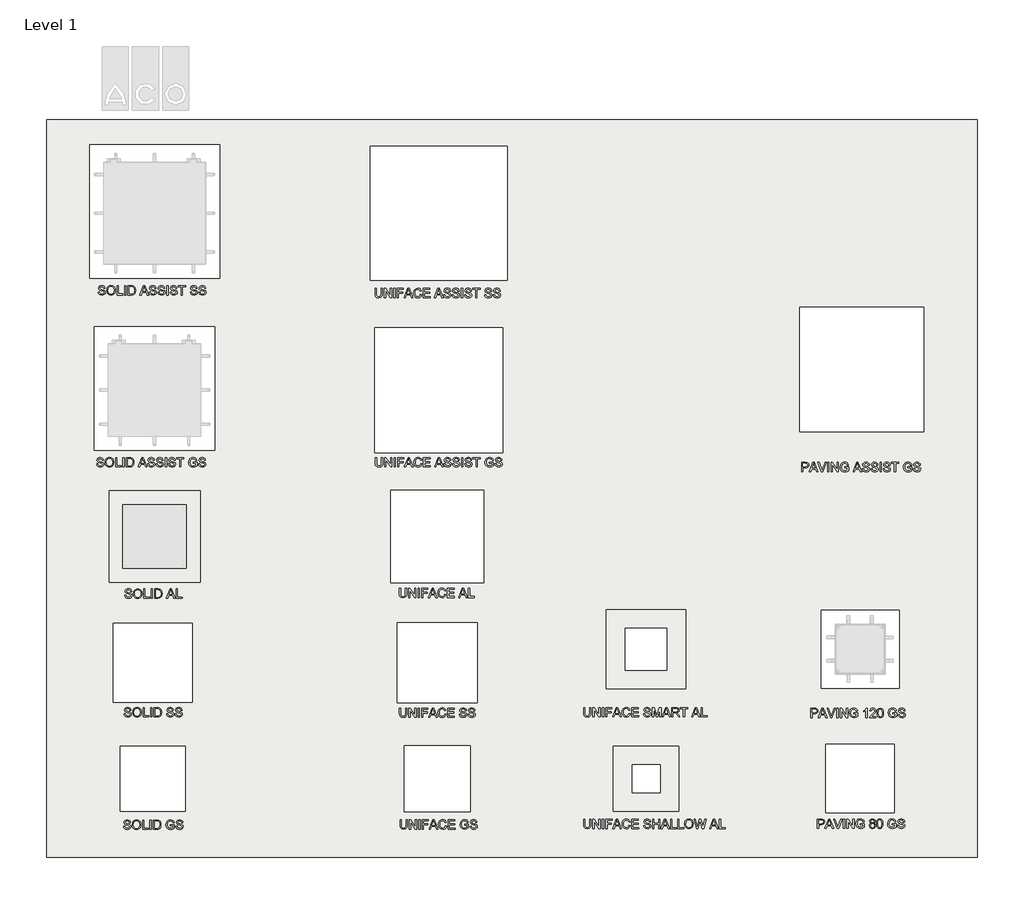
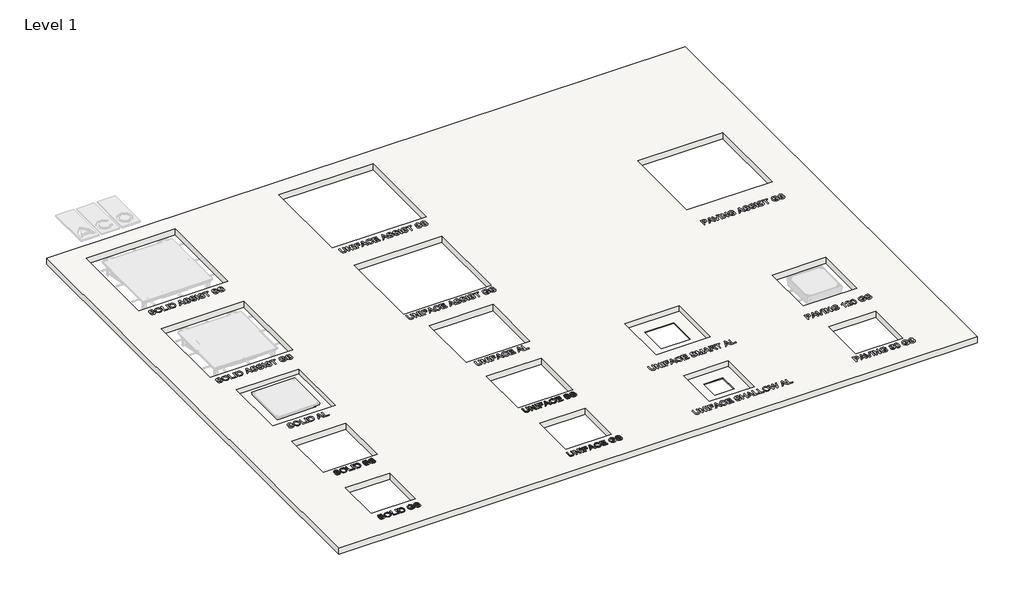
# One storey, part 1 of 4: 4 proxies, 1 slab.
"""IFC4 building model written with IfcOpenShell, lengths in millimetres."""

import ifcopenshell
import ifcopenshell.guid

model = None  # the IFC model being written
_history = None  # IfcOwnerHistory: only IFC2X3 demands one
_inside = {}  # id of a spatial element -> (the spatial element, [elements in it])
_under = {}  # id of a project, library or spatial element -> (it, [spatial elements below it])
_declared = {}  # id of a project -> (the project, [libraries it declares])
_typed = {}  # id of a type object -> (the type object, [elements of that type])
_made_of = {}  # id of a material, layer set ... -> (it, [elements and type objects made of it])


def new_model(schema):
    """Start an empty IFC model of exactly this schema.

    Asked for "IFC4X3", IfcOpenShell would pick the latest addendum, in which some entities
    have other attributes; the version numbers below select the first issue.
    IFC2X3 requires an IfcOwnerHistory on every rooted entity: one is made here for all.
    """
    global model, _history
    if schema == "IFC4X3":
        model = ifcopenshell.file(schema_version=(4, 3, 0, 0))
    else:
        model = ifcopenshell.file(schema=schema)
    _inside.clear()
    _under.clear()
    _declared.clear()
    _typed.clear()
    _made_of.clear()
    _history = None
    if model.schema == "IFC2X3":
        org = make("IfcOrganization", Name="unknown")
        user = make(
            "IfcPersonAndOrganization",
            ThePerson=make("IfcPerson", FamilyName="unknown"),
            TheOrganization=org,
        )
        app = make(
            "IfcApplication",
            ApplicationDeveloper=org,
            Version="unknown",
            ApplicationFullName="unknown",
            ApplicationIdentifier="unknown",
        )
        _history = make(
            "IfcOwnerHistory",
            OwningUser=user,
            OwningApplication=app,
            ChangeAction="ADDED",
            CreationDate=0,
        )
    return model


def make(cls, **values):
    """One entity of the class cls with the attributes given. An attribute that is None is left unset."""
    return model.create_entity(
        cls, **{name: value for name, value in values.items() if value is not None}
    )


def rooted(cls, **values):
    """An entity with a GlobalId (a new one), such as an element, a storey or a relation."""
    return make(cls, GlobalId=ifcopenshell.guid.new(), OwnerHistory=_history, **values)


def si_unit(unit_type, name, prefix=None):
    """IfcSIUnit, for example si_unit("LENGTHUNIT", "METRE", prefix="MILLI")."""
    return make("IfcSIUnit", UnitType=unit_type, Prefix=prefix, Name=name)


def assignment(units):
    """IfcUnitAssignment: the units of a project."""
    return None if units is None else make("IfcUnitAssignment", Units=units)


def point(xyz):
    """IfcCartesianPoint."""
    return None if xyz is None else make("IfcCartesianPoint", Coordinates=xyz)


def direction(xyz):
    """IfcDirection."""
    return None if xyz is None else make("IfcDirection", DirectionRatios=xyz)


def frame(location, z_axis=None, x_axis=None):
    """IfcAxis2Placement3D, a coordinate frame: its origin and axes. An axis left out is left unset."""
    return make(
        "IfcAxis2Placement3D",
        Location=point(location),
        Axis=direction(z_axis),
        RefDirection=direction(x_axis),
    )


def origin():
    """The frame at (0, 0, 0) with its axes left unset."""
    return frame((0.0, 0.0, 0.0))


def origin_with_axes():
    """The frame at (0, 0, 0) with the z axis (0, 0, 1) and the x axis (1, 0, 0) written out."""
    return frame((0.0, 0.0, 0.0), z_axis=(0.0, 0.0, 1.0), x_axis=(1.0, 0.0, 0.0))


def place(relative_to, where):
    """IfcLocalPlacement: puts the frame where relative to a parent placement (None: the world)."""
    return make(
        "IfcLocalPlacement", PlacementRelTo=relative_to, RelativePlacement=where
    )


def context(
    kind, dimensions, precision=None, world=None, true_north=None, identifier=None
):
    """IfcGeometricRepresentationContext, for example the 3D "Model" context."""
    return make(
        "IfcGeometricRepresentationContext",
        ContextIdentifier=identifier,
        ContextType=kind,
        CoordinateSpaceDimension=dimensions,
        Precision=precision,
        WorldCoordinateSystem=world,
        TrueNorth=true_north,
    )


def project(units=None, contexts=None):
    """IfcProject with its units and contexts."""
    return rooted(
        "IfcProject",
        Name="project",
        RepresentationContexts=contexts,
        UnitsInContext=assignment(units),
    )


def spatial(cls, under=None, at=None, **own):
    """A site, building, storey or space (cls), placed at a placement, below another one or the project."""
    s = rooted(cls, ObjectPlacement=at, **own)
    if under is not None:
        _under.setdefault(under.id(), (under, []))[1].append(s)
    return s


def polyline(points):
    """IfcPolyline through the points."""
    return make("IfcPolyline", Points=[point(p) for p in points])


def outline(outer, holes=None, kind="AREA"):
    """IfcArbitraryClosedProfileDef: a profile drawn as a closed curve; with holes, ...WithVoids."""
    if holes is None:
        return make("IfcArbitraryClosedProfileDef", ProfileType=kind, OuterCurve=outer)
    return make(
        "IfcArbitraryProfileDefWithVoids",
        ProfileType=kind,
        OuterCurve=outer,
        InnerCurves=holes,
    )


def extrude(swept, where, along, depth):
    """IfcExtrudedAreaSolid: the profile swept, set in the frame where, extruded along a direction by depth."""
    return make(
        "IfcExtrudedAreaSolid",
        SweptArea=swept,
        Position=where,
        ExtrudedDirection=direction(along),
        Depth=depth,
    )


def faces_of(points, faces, orient=None, outer=None):
    """IfcFace entities. A face is a list of loops; a loop is a list of indices into points, from 0.

    orient and outer hold one flag for each loop. By default every Orientation is true, the
    first loop of a face is its IfcFaceOuterBound and the others are IfcFaceBound.
    """
    made = []
    for i, loops in enumerate(faces):
        bounds = []
        for j, loop in enumerate(loops):
            is_outer = j == 0 if outer is None else outer[i][j]
            bounds.append(
                make(
                    "IfcFaceOuterBound" if is_outer else "IfcFaceBound",
                    Bound=make("IfcPolyLoop", Polygon=[points[k] for k in loop]),
                    Orientation=True if orient is None else orient[i][j],
                )
            )
        made.append(make("IfcFace", Bounds=bounds))
    return made


def faceted_brep(points, faces, orient=None, outer=None, voids=None):
    """IfcFacetedBrep: a solid bounded by flat faces; with voids (closed shells), ...WithVoids."""
    shared = [point(p) for p in points]
    hull = make("IfcClosedShell", CfsFaces=faces_of(shared, faces, orient, outer))
    if voids is None:
        return make("IfcFacetedBrep", Outer=hull)
    return make(
        "IfcFacetedBrepWithVoids",
        Outer=hull,
        Voids=[
            make(cls, CfsFaces=faces_of(shared, fs, o, b)) for cls, fs, o, b in voids
        ],
    )


def shape(context_of_items, identifier, shape_type, items):
    """IfcShapeRepresentation: the items that make up one representation, for example the "Body"."""
    return make(
        "IfcShapeRepresentation",
        ContextOfItems=context_of_items,
        RepresentationIdentifier=identifier,
        RepresentationType=shape_type,
        Items=items,
    )


def made_of(thing, what):
    """Note that an element or type object is made of a material, layer set ...; save() writes the relation."""
    if what is not None:
        _made_of.setdefault(what.id(), (what, []))[1].append(thing)
    return thing


def element(
    cls,
    number,
    at=None,
    inside=None,
    cuts=None,
    type_object=None,
    material=None,
    context=None,
    identifier="Body",
    shape_type=None,
    held_by="IfcProductDefinitionShape",
    body=None,
    shapes=None,
    **own,
):
    """One element of the class cls, such as IfcWall. Its Tag is "e" and its number.

    at: its placement. inside: the storey or other place that contains it. cuts: it is an
    opening in that element (IfcRelVoidsElement). A single representation is given by context,
    identifier, shape_type and body (its items); several are given by shapes. held_by: the class
    of the entity that holds the representations. save() writes the other relations.
    """
    e = rooted(cls, Tag="e%d" % number, ObjectPlacement=at, **own)
    if body is not None:
        shapes = [shape(context, identifier, shape_type, body)]
    if shapes is not None:
        e.Representation = make(held_by, Representations=shapes)
    if inside is not None:
        _inside.setdefault(inside.id(), (inside, []))[1].append(e)
    if cuts is not None:
        rooted(
            "IfcRelVoidsElement", RelatingBuildingElement=cuts, RelatedOpeningElement=e
        )
    if type_object is not None:
        _typed.setdefault(type_object.id(), (type_object, []))[1].append(e)
    return made_of(e, material)


def aggregate(whole, parts):
    """IfcRelAggregates: a whole, such as a stair, and the parts it consists of."""
    return rooted("IfcRelAggregates", RelatingObject=whole, RelatedObjects=parts)


def save(model, path):
    """Write the relations noted so far, then the file.

    IfcRelAggregates (storeys below a building ...), IfcRelContainedInSpatialStructure (elements
    in a storey), IfcRelDefinesByType, IfcRelAssociatesMaterial and IfcRelDeclares: one each for
    every whole, place, type object, material and project.
    """
    for whole, parts in _under.values():
        aggregate(whole, parts)
    for where, things in _inside.values():
        rooted(
            "IfcRelContainedInSpatialStructure",
            RelatedElements=things,
            RelatingStructure=where,
        )
    for kind, things in _typed.values():
        rooted("IfcRelDefinesByType", RelatedObjects=things, RelatingType=kind)
    for what, things in _made_of.values():
        rooted("IfcRelAssociatesMaterial", RelatedObjects=things, RelatingMaterial=what)
    for by, libraries in _declared.values():
        rooted("IfcRelDeclares", RelatingContext=by, RelatedDefinitions=libraries)
    model.write(path)


model = new_model("IFC4")

# Units and contexts
model_context = context("Model", 3, world=origin())
ifc_project = project(units=[si_unit("LENGTHUNIT", "METRE", prefix="MILLI")], contexts=[model_context])

# Site, building, storey
site = spatial("IfcSite", under=ifc_project)
building = spatial("IfcBuilding", under=site)
storey = spatial("IfcBuildingStorey", under=building, Name="Level 1", Elevation=0.0)

# Proxies
placement = place(None, origin())
element("IfcBuildingElementProxy", 1, Name="100mm ACO", ObjectType="100mm ACO", at=placement, inside=storey, context=model_context, shape_type="SweptSolid", body=[
    extrude(outline(polyline([(4611.9144289, -5238.8626442), (4611.0753085, -5253.1421581), (4606.61929, -5266.6259544), (4594.8716048, -5278.1710933), (4573.1991511, -5282.7862553), (4551.8739197, -5278.6919266), (4539.9960261, -5268.1016489), (4535.1783178, -5254.5744498), (4534.1366511, -5238.8626442), (4534.1366511, -5180.9344035), (4547.0996141, -5180.9344035), (4547.0996141, -5239.2098665), (4548.3872298, -5254.8782692), (4555.1725308, -5266.5680841), (4562.1676118, -5270.3983792), (4572.1574845, -5271.6751442), (4589.5909335, -5267.6097507), (4597.1864197, -5256.7445887), (4598.9514659, -5239.2098665), (4598.9514659, -5180.9344035), (4611.9144289, -5180.9344035), (4611.9144289, -5238.8626442)])), origin_with_axes(), (0.0, 0.0, 1.0), 10.0),
    extrude(outline(polyline([(4711.9144289, -5280.9344035), (4698.02554, -5280.9344035), (4647.3600308, -5202.6936628), (4647.3600308, -5280.9344035), (4634.1366511, -5280.9344035), (4634.1366511, -5180.9344035), (4648.0544752, -5180.9344035), (4698.6910493, -5259.1172739), (4698.6910493, -5180.9344035), (4711.9144289, -5180.9344035), (4711.9144289, -5280.9344035)])), origin_with_axes(), (0.0, 0.0, 1.0), 10.0),
    extrude(outline(polyline([(4748.9514659, -5280.9344035), (4735.988503, -5280.9344035), (4735.988503, -5180.9344035), (4748.9514659, -5180.9344035), (4748.9514659, -5280.9344035)])), origin_with_axes(), (0.0, 0.0, 1.0), 10.0),
    extrude(outline(polyline([(4839.6922067, -5192.0455146), (4785.988503, -5192.0455146), (4785.988503, -5223.5269961), (4832.2847993, -5223.5269961), (4832.2847993, -5234.6381072), (4785.988503, -5234.6381072), (4785.988503, -5280.9344035), (4773.02554, -5280.9344035), (4773.02554, -5180.9344035), (4839.6922067, -5180.9344035), (4839.6922067, -5192.0455146)])), origin_with_axes(), (0.0, 0.0, 1.0), 10.0),
    extrude(outline(polyline([(4940.1551697, -5280.9344035), (4926.3530863, -5280.9344035), (4914.3739197, -5251.3047739), (4871.926003, -5251.3047739), (4860.4097993, -5280.9344035), (4846.6366511, -5280.9344035), (4885.4966048, -5180.9344035), (4899.6748456, -5180.9344035), (4940.1551697, -5280.9344035)]), holes=[polyline([(4909.8600308, -5240.1936628), (4895.4358409, -5203.5327831), (4892.4699845, -5191.8719035), (4887.8114197, -5210.4482924), (4876.2662808, -5240.1936628), (4909.8600308, -5240.1936628)])]), origin_with_axes(), (0.0, 0.0, 1.0), 10.0),
    extrude(outline(polyline([(5034.1366511, -5249.1056998), (5028.2230227, -5263.9313653), (5019.1048224, -5274.4384544), (5007.3173514, -5280.6993051), (4993.3959104, -5282.7862553), (4972.4902391, -5278.9306419), (4958.1528548, -5267.3638016), (4949.8629243, -5250.3716141), (4947.0996141, -5230.2399591), (4950.3439717, -5208.8532403), (4960.0770447, -5192.6676211), (4974.909944, -5182.478819), (4993.4537808, -5179.0825516), (5006.7675828, -5180.8946176), (5018.0052854, -5186.3308155), (5026.6749903, -5195.2609371), (5032.2847993, -5207.5547739), (5019.3218363, -5210.5640331), (5009.4694058, -5195.3007229), (4992.9618826, -5190.1936628), (4978.7402391, -5192.9027195), (4968.4248456, -5201.0298896), (4962.1531442, -5213.7143514), (4960.0625771, -5230.0952831), (4962.2761187, -5248.458275), (4968.9167437, -5261.4176211), (4979.1163965, -5269.1107634), (4992.0070215, -5271.6751442), (5002.5755979, -5270.0583908), (5010.9595678, -5265.2081303), (5017.1589312, -5257.1098954), (5021.1736882, -5245.7492183), (5034.1366511, -5249.1056998)])), origin_with_axes(), (0.0, 0.0, 1.0), 10.0),
    extrude(outline(polyline([(5124.8773919, -5280.9344035), (5050.8033178, -5280.9344035), (5050.8033178, -5180.9344035), (5123.02554, -5180.9344035), (5123.02554, -5192.0455146), (5063.7662808, -5192.0455146), (5063.7662808, -5223.5269961), (5119.3218363, -5223.5269961), (5119.3218363, -5234.6381072), (5063.7662808, -5234.6381072), (5063.7662808, -5269.8232924), (5124.8773919, -5269.8232924), (5124.8773919, -5280.9344035)])), origin_with_axes(), (0.0, 0.0, 1.0), 10.0),
    extrude(outline(polyline([(5269.3218363, -5267.5952831), (5249.9135609, -5278.9885123), (5228.7836419, -5282.7862553), (5208.4024208, -5279.2706303), (5192.3976465, -5268.7237553), (5182.0352333, -5252.3464405), (5178.5810956, -5231.3394961), (5184.2089891, -5204.8348665), (5191.171518, -5193.948003), (5200.8033178, -5185.8244498), (5212.9922646, -5180.7680262), (5227.6262345, -5179.0825516), (5242.4627507, -5180.9561049), (5254.0440585, -5186.5767646), (5262.3773919, -5195.937297), (5267.4699845, -5209.0304683), (5254.5070215, -5212.415885), (5250.7490643, -5202.7117472), (5244.8571372, -5195.7636859), (5236.8312403, -5191.5861685), (5226.6713734, -5190.1936628), (5211.4116801, -5193.0003757), (5200.4126928, -5201.4205146), (5193.7612171, -5214.3834776), (5191.5440585, -5230.8186628), (5195.9277391, -5253.43151), (5208.9341048, -5267.0599822), (5227.6841048, -5271.6751442), (5242.5495562, -5268.8684313), (5256.3588734, -5260.4482924), (5256.3588734, -5240.1936628), (5226.7292437, -5240.1936628), (5226.7292437, -5229.0825516), (5269.3218363, -5229.0825516), (5269.3218363, -5267.5952831)])), origin_with_axes(), (0.0, 0.0, 1.0), 10.0),
    extrude(outline(polyline([(5347.0996141, -5210.5640331), (5345.0886187, -5201.6700806), (5340.6181326, -5195.3007229), (5324.2986882, -5190.1936628), (5308.6736882, -5194.1722507), (5304.1597993, -5199.0586801), (5302.6551697, -5205.7607924), (5307.1256558, -5215.8157692), (5325.3114197, -5222.109172), (5345.1464891, -5227.5923896), (5358.2975308, -5236.5188942), (5362.3990933, -5243.6007808), (5363.7662808, -5252.7515331), (5361.2597703, -5264.5896408), (5353.7402391, -5274.2359081), (5342.1914833, -5280.6486685), (5327.5972993, -5282.7862553), (5309.6140817, -5280.4135702), (5296.8102622, -5273.2955146), (5288.9977622, -5262.4014174), (5285.988503, -5248.7006072), (5298.9514659, -5247.6010702), (5301.5809509, -5258.4770829), (5307.791165, -5265.93151), (5316.6272472, -5270.2392357), (5327.1343363, -5271.6751442), (5344.2639659, -5266.9442415), (5349.1684798, -5261.3706014), (5350.8033178, -5254.1114868), (5349.1142264, -5246.7836512), (5344.0469521, -5241.7561628), (5320.7685956, -5234.3053526), (5306.5578028, -5229.9650748), (5296.9694058, -5224.0912322), (5291.5115065, -5216.463194), (5289.6922067, -5206.8603294), (5291.9744694, -5195.8649591), (5298.8212576, -5186.952922), (5309.603231, -5181.0501442), (5323.6910493, -5179.0825516), (5338.2526812, -5181.0646118), (5349.6459104, -5187.0107924), (5357.1545909, -5196.6028063), (5360.0625771, -5209.5223665), (5347.0996141, -5210.5640331)])), origin_with_axes(), (0.0, 0.0, 1.0), 10.0),
])
element("IfcBuildingElementProxy", 2, Name="100mm ACO", ObjectType="100mm ACO", at=placement, inside=storey, context=model_context, shape_type="SweptSolid", body=[
    extrude(outline(polyline([(4606.1814142, -4037.7834281), (4605.3422938, -4052.062942), (4600.8862753, -4065.5467383), (4589.1385901, -4077.0918772), (4567.4661364, -4081.7070392), (4546.1409049, -4077.6127105), (4534.2630114, -4067.0224328), (4529.4453031, -4053.4952337), (4528.4036364, -4037.7834281), (4528.4036364, -3979.8551874), (4541.3665994, -3979.8551874), (4541.3665994, -4038.1306503), (4542.6542151, -4053.7990531), (4549.439516, -4065.4888679), (4556.4345971, -4069.3191631), (4566.4244697, -4070.5959281), (4583.8579188, -4066.5305346), (4591.4534049, -4055.6653726), (4593.2184512, -4038.1306503), (4593.2184512, -3979.8551874), (4606.1814142, -3979.8551874), (4606.1814142, -4037.7834281)])), origin_with_axes(), (0.0, 0.0, 1.0), 10.0),
    extrude(outline(polyline([(4706.1814142, -4079.8551874), (4692.2925253, -4079.8551874), (4641.627016, -4001.6144466), (4641.627016, -4079.8551874), (4628.4036364, -4079.8551874), (4628.4036364, -3979.8551874), (4642.3214605, -3979.8551874), (4692.9580346, -4058.0380578), (4692.9580346, -3979.8551874), (4706.1814142, -3979.8551874), (4706.1814142, -4079.8551874)])), origin_with_axes(), (0.0, 0.0, 1.0), 10.0),
    extrude(outline(polyline([(4743.2184512, -4079.8551874), (4730.2554883, -4079.8551874), (4730.2554883, -3979.8551874), (4743.2184512, -3979.8551874), (4743.2184512, -4079.8551874)])), origin_with_axes(), (0.0, 0.0, 1.0), 10.0),
    extrude(outline(polyline([(4833.959192, -3990.9662985), (4780.2554883, -3990.9662985), (4780.2554883, -4022.44778), (4826.5517846, -4022.44778), (4826.5517846, -4033.5588911), (4780.2554883, -4033.5588911), (4780.2554883, -4079.8551874), (4767.2925253, -4079.8551874), (4767.2925253, -3979.8551874), (4833.959192, -3979.8551874), (4833.959192, -3990.9662985)])), origin_with_axes(), (0.0, 0.0, 1.0), 10.0),
    extrude(outline(polyline([(4934.4221549, -4079.8551874), (4920.6200716, -4079.8551874), (4908.6409049, -4050.2255578), (4866.1929883, -4050.2255578), (4854.6767846, -4079.8551874), (4840.9036364, -4079.8551874), (4879.7635901, -3979.8551874), (4893.9418308, -3979.8551874), (4934.4221549, -4079.8551874)]), holes=[polyline([(4904.127016, -4039.1144466), (4889.7028262, -4002.453567), (4886.7369697, -3990.7926874), (4882.0784049, -4009.3690763), (4870.533266, -4039.1144466), (4904.127016, -4039.1144466)])]), origin_with_axes(), (0.0, 0.0, 1.0), 10.0),
    extrude(outline(polyline([(5028.4036364, -4048.0264837), (5022.4900079, -4062.8521492), (5013.3718077, -4073.3592383), (5001.5843366, -4079.620089), (4987.6628957, -4081.7070392), (4966.7572244, -4077.8514258), (4952.4198401, -4066.2845855), (4944.1299096, -4049.292398), (4941.3665994, -4029.1607429), (4944.610957, -4007.7740242), (4954.3440299, -3991.588405), (4969.1769292, -3981.3996029), (4987.720766, -3978.0033355), (5001.0345681, -3979.8154015), (5012.2722707, -3985.2515994), (5020.9419755, -3994.1817209), (5026.5517846, -4006.4755578), (5013.5888216, -4009.484817), (5003.736391, -3994.2215068), (4987.2288679, -3989.1144466), (4973.0072244, -3991.8235034), (4962.6918308, -3999.9506735), (4956.4201295, -4012.6351353), (4954.3295623, -4029.016067), (4956.543104, -4047.3790589), (4963.183729, -4060.338405), (4973.3833818, -4068.0315473), (4986.2740068, -4070.5959281), (4996.8425832, -4068.9791747), (5005.2265531, -4064.1289142), (5011.4259165, -4056.0306793), (5015.4406734, -4044.6700022), (5028.4036364, -4048.0264837)])), origin_with_axes(), (0.0, 0.0, 1.0), 10.0),
    extrude(outline(polyline([(5119.1443771, -4079.8551874), (5045.0703031, -4079.8551874), (5045.0703031, -3979.8551874), (5117.2925253, -3979.8551874), (5117.2925253, -3990.9662985), (5058.033266, -3990.9662985), (5058.033266, -4022.44778), (5113.5888216, -4022.44778), (5113.5888216, -4033.5588911), (5058.033266, -4033.5588911), (5058.033266, -4068.7440763), (5119.1443771, -4068.7440763), (5119.1443771, -4079.8551874)])), origin_with_axes(), (0.0, 0.0, 1.0), 10.0),
    extrude(outline(polyline([(5233.959192, -4009.484817), (5231.9481966, -4000.5908645), (5227.4777105, -3994.2215068), (5211.158266, -3989.1144466), (5195.533266, -3993.0930346), (5191.0193771, -3997.979464), (5189.5147475, -4004.6815763), (5193.9852336, -4014.7365531), (5212.1709975, -4021.0299559), (5232.006067, -4026.5131735), (5245.1571086, -4035.4396781), (5249.2586711, -4042.5215647), (5250.6258586, -4051.672317), (5248.1193482, -4063.5104247), (5240.599817, -4073.156692), (5229.0510612, -4079.5694524), (5214.4568771, -4081.7070392), (5196.4736596, -4079.334354), (5183.6698401, -4072.2162985), (5175.8573401, -4061.3222013), (5172.8480808, -4047.6213911), (5185.8110438, -4046.521854), (5188.4405288, -4057.3978668), (5194.6507429, -4064.8522939), (5203.4868251, -4069.1600196), (5213.9939142, -4070.5959281), (5231.1235438, -4065.8650253), (5236.0280577, -4060.2913853), (5237.6628957, -4053.0322707), (5235.9738042, -4045.7044351), (5230.9065299, -4040.6769466), (5207.6281734, -4033.2261365), (5193.4173806, -4028.8858587), (5183.8289836, -4023.0120161), (5178.3710843, -4015.3839779), (5176.5517846, -4005.7811133), (5178.8340473, -3994.7857429), (5185.6808355, -3985.8737059), (5196.4628089, -3979.9709281), (5210.5506271, -3978.0033355), (5225.1122591, -3979.9853957), (5236.5054883, -3985.9315763), (5244.0141688, -3995.5235902), (5246.9221549, -4008.4431503), (5233.959192, -4009.484817)])), origin_with_axes(), (0.0, 0.0, 1.0), 10.0),
    extrude(outline(polyline([(5326.5517846, -4009.484817), (5324.5407892, -4000.5908645), (5320.0703031, -3994.2215068), (5303.7508586, -3989.1144466), (5288.1258586, -3993.0930346), (5283.6119697, -3997.979464), (5282.1073401, -4004.6815763), (5286.5778262, -4014.7365531), (5304.7635901, -4021.0299559), (5324.5986596, -4026.5131735), (5337.7497012, -4035.4396781), (5341.8512637, -4042.5215647), (5343.2184512, -4051.672317), (5340.7119408, -4063.5104247), (5333.1924096, -4073.156692), (5321.6436538, -4079.5694524), (5307.0494697, -4081.7070392), (5289.0662521, -4079.334354), (5276.2624327, -4072.2162985), (5268.4499327, -4061.3222013), (5265.4406734, -4047.6213911), (5278.4036364, -4046.521854), (5281.0331214, -4057.3978668), (5287.2433355, -4064.8522939), (5296.0794177, -4069.1600196), (5306.5865068, -4070.5959281), (5323.7161364, -4065.8650253), (5328.6206503, -4060.2913853), (5330.2554883, -4053.0322707), (5328.5663968, -4045.7044351), (5323.4991225, -4040.6769466), (5300.220766, -4033.2261365), (5286.0099732, -4028.8858587), (5276.4215762, -4023.0120161), (5270.9636769, -4015.3839779), (5269.1443771, -4005.7811133), (5271.4266399, -3994.7857429), (5278.2734281, -3985.8737059), (5289.0554015, -3979.9709281), (5303.1432197, -3978.0033355), (5317.7048517, -3979.9853957), (5329.0980808, -3985.9315763), (5336.6067614, -3995.5235902), (5339.5147475, -4008.4431503), (5326.5517846, -4009.484817)])), origin_with_axes(), (0.0, 0.0, 1.0), 10.0),
])
element("IfcBuildingElementProxy", 3, Name="100mm ACO", ObjectType="100mm ACO", at=placement, inside=storey, context=model_context, shape_type="SweptSolid", body=[
    extrude(outline(polyline([(1631.497899, -4005.4837815), (1629.4869036, -3996.589829), (1625.0164175, -3990.2204713), (1608.696973, -3985.1134112), (1593.071973, -3989.0919991), (1588.5580842, -3993.9784285), (1587.0534545, -4000.6805408), (1591.5239406, -4010.7355176), (1609.7097045, -4017.0289204), (1629.544774, -4022.512138), (1642.6958156, -4031.4386426), (1646.7973781, -4038.5205292), (1648.1645656, -4047.6712815), (1645.6580552, -4059.5093892), (1638.138524, -4069.1556565), (1626.5897682, -4075.5684169), (1611.9955842, -4077.7060037), (1594.0123666, -4075.3333186), (1581.2085471, -4068.215263), (1573.3960471, -4057.3211658), (1570.3867879, -4043.6203556), (1583.3497508, -4042.5208186), (1585.9792358, -4053.3968313), (1592.1894499, -4060.8512584), (1601.0255321, -4065.1589841), (1611.5326212, -4066.5948926), (1628.6622508, -4061.8639899), (1633.5667647, -4056.2903498), (1635.2016027, -4049.0312352), (1633.5125112, -4041.7033996), (1628.4452369, -4036.6759112), (1605.1668804, -4029.225101), (1590.9560876, -4024.8848232), (1581.3676906, -4019.0109806), (1575.9097913, -4011.3829424), (1574.0904916, -4001.7800778), (1576.3727543, -3990.7847075), (1583.2195425, -3981.8726704), (1594.0015159, -3975.9698926), (1608.0893342, -3974.0023), (1622.6509661, -3975.9843602), (1634.0441953, -3981.9305408), (1641.5528758, -3991.5225547), (1644.4608619, -4004.4421149), (1631.497899, -4005.4837815)])), origin_with_axes(), (0.0, 0.0, 1.0), 10.0),
    extrude(outline(polyline([(1709.3624823, -3974.0023), (1727.8520656, -3977.5757954), (1742.6379453, -3988.2962815), (1752.3384661, -4004.8689088), (1755.571973, -4025.9988278), (1752.3203816, -4047.0383243), (1742.5656073, -4063.5132954), (1727.7616432, -4074.1578267), (1709.3624823, -4077.7060037), (1690.4895078, -4074.0276183), (1675.7108619, -4062.9924621), (1666.1622508, -4046.6621669), (1662.9793804, -4027.0983649), (1666.2056536, -4005.0172017), (1675.884473, -3988.1950084), (1690.7065217, -3977.5504771), (1709.3624823, -3974.0023)]), holes=[polyline([(1709.2467416, -4066.5948926), (1722.6871351, -4063.9111542), (1733.3208156, -4055.8599389), (1740.2580263, -4043.0271843), (1742.6090101, -4025.9988278), (1740.2544094, -4008.590697), (1733.1906073, -3995.7181565), (1722.5605436, -3987.7645975), (1709.5071582, -3985.1134112), (1696.1608041, -3987.710344), (1685.404149, -3995.5011426), (1678.3077948, -4008.6594181), (1675.9423434, -4027.3587815), (1678.2571582, -4043.2405813), (1685.2016027, -4055.7586658), (1695.842517, -4063.8858359), (1709.2467416, -4066.5948926)])]), origin_with_axes(), (0.0, 0.0, 1.0), 10.0),
    extrude(outline(polyline([(1837.0534545, -4075.8541519), (1774.0904916, -4075.8541519), (1774.0904916, -3975.8541519), (1787.0534545, -3975.8541519), (1787.0534545, -4064.7430408), (1837.0534545, -4064.7430408), (1837.0534545, -4075.8541519)])), origin_with_axes(), (0.0, 0.0, 1.0), 10.0),
    extrude(outline(polyline([(1866.6830842, -4075.8541519), (1853.7201212, -4075.8541519), (1853.7201212, -3975.8541519), (1866.6830842, -3975.8541519), (1866.6830842, -4075.8541519)])), origin_with_axes(), (0.0, 0.0, 1.0), 10.0),
    extrude(outline(polyline([(1890.7571582, -3975.8541519), (1924.784936, -3975.8541519), (1940.1784545, -3976.7800778), (1952.5048434, -3981.2794991), (1962.7913017, -3991.1319297), (1969.7212786, -4005.5561195), (1972.2386397, -4025.3043834), (1969.6489406, -4045.4396554), (1961.8798434, -4061.6325084), (1947.795642, -4072.298741), (1926.2606304, -4075.8541519), (1890.7571582, -4075.8541519), (1890.7571582, -3975.8541519)]), holes=[polyline([(1903.7201212, -4064.7430408), (1925.0453527, -4064.7430408), (1936.6917647, -4063.9039204), (1947.0939638, -4059.3755639), (1955.8179221, -4047.2806565), (1959.2756767, -4025.0150315), (1957.9446582, -4010.72105), (1953.0546119, -3998.611675), (1944.8804221, -3990.6110963), (1935.8815795, -3987.5150315), (1924.6402601, -3986.965263), (1903.7201212, -3986.965263), (1903.7201212, -4064.7430408)])]), origin_with_axes(), (0.0, 0.0, 1.0), 10.0),
    extrude(outline(polyline([(2087.0534545, -4005.4837815), (2085.0424592, -3996.589829), (2080.571973, -3990.2204713), (2064.2525286, -3985.1134112), (2048.6275286, -3989.0919991), (2044.1136397, -3993.9784285), (2042.6090101, -4000.6805408), (2047.0794962, -4010.7355176), (2065.2652601, -4017.0289204), (2085.1003295, -4022.512138), (2098.2513712, -4031.4386426), (2102.3529337, -4038.5205292), (2103.7201212, -4047.6712815), (2101.2136108, -4059.5093892), (2093.6940795, -4069.1556565), (2082.1453237, -4075.5684169), (2067.5511397, -4077.7060037), (2049.5679221, -4075.3333186), (2036.7641027, -4068.215263), (2028.9516027, -4057.3211658), (2025.9423434, -4043.6203556), (2038.9053064, -4042.5208186), (2041.5347913, -4053.3968313), (2047.7450054, -4060.8512584), (2056.5810876, -4065.1589841), (2067.0881767, -4066.5948926), (2084.2178064, -4061.8639899), (2089.1223203, -4056.2903498), (2090.7571582, -4049.0312352), (2089.0680668, -4041.7033996), (2084.0007925, -4036.6759112), (2060.722436, -4029.225101), (2046.5116432, -4024.8848232), (2036.9232462, -4019.0109806), (2031.4653469, -4011.3829424), (2029.6460471, -4001.7800778), (2031.9283098, -3990.7847075), (2038.775098, -3981.8726704), (2049.5570714, -3975.9698926), (2063.6448897, -3974.0023), (2078.2065217, -3975.9843602), (2089.5997508, -3981.9305408), (2097.1084314, -3991.5225547), (2100.0164175, -4004.4421149), (2087.0534545, -4005.4837815)])), origin_with_axes(), (0.0, 0.0, 1.0), 10.0),
    extrude(outline(polyline([(2179.6460471, -4005.4837815), (2177.6350517, -3996.589829), (2173.1645656, -3990.2204713), (2156.8451212, -3985.1134112), (2141.2201212, -3989.0919991), (2136.7062323, -3993.9784285), (2135.2016027, -4000.6805408), (2139.6720888, -4010.7355176), (2157.8578527, -4017.0289204), (2177.6929221, -4022.512138), (2190.8439638, -4031.4386426), (2194.9455263, -4038.5205292), (2196.3127138, -4047.6712815), (2193.8062034, -4059.5093892), (2186.2866721, -4069.1556565), (2174.7379163, -4075.5684169), (2160.1437323, -4077.7060037), (2142.1605147, -4075.3333186), (2129.3566953, -4068.215263), (2121.5441953, -4057.3211658), (2118.534936, -4043.6203556), (2131.497899, -4042.5208186), (2134.1273839, -4053.3968313), (2140.337598, -4060.8512584), (2149.1736802, -4065.1589841), (2159.6807693, -4066.5948926), (2176.810399, -4061.8639899), (2181.7149129, -4056.2903498), (2183.3497508, -4049.0312352), (2181.6606594, -4041.7033996), (2176.5933851, -4036.6759112), (2153.3150286, -4029.225101), (2139.1042358, -4024.8848232), (2129.5158388, -4019.0109806), (2124.0579395, -4011.3829424), (2122.2386397, -4001.7800778), (2124.5209024, -3990.7847075), (2131.3676906, -3981.8726704), (2142.149664, -3975.9698926), (2156.2374823, -3974.0023), (2170.7991142, -3975.9843602), (2182.1923434, -3981.9305408), (2189.701024, -3991.5225547), (2192.6090101, -4004.4421149), (2179.6460471, -4005.4837815)])), origin_with_axes(), (0.0, 0.0, 1.0), 10.0),
])
element("IfcBuildingElementProxy", 4, Name="100mm ACO", ObjectType="100mm ACO", at=placement, inside=storey, context=model_context, shape_type="SweptSolid", body=[
    extrude(outline(polyline([(1625.6481016, -5212.9221191), (1623.6371062, -5204.0281666), (1619.1666201, -5197.6588089), (1602.8471757, -5192.5517487), (1587.2221757, -5196.5303367), (1582.7082868, -5201.4167661), (1581.2036572, -5208.1188784), (1585.6741433, -5218.1738552), (1603.8599072, -5224.467258), (1623.6949766, -5229.9504756), (1636.8460183, -5238.8769802), (1640.9475808, -5245.9588668), (1642.3147683, -5255.1096191), (1639.8082579, -5266.9477267), (1632.2887266, -5276.5939941), (1620.7399708, -5283.0067545), (1606.1457868, -5285.1443413), (1588.1625692, -5282.7716561), (1575.3587498, -5275.6536006), (1567.5462498, -5264.7595034), (1564.5369905, -5251.0586932), (1577.4999535, -5249.9591561), (1580.1294384, -5260.8351689), (1586.3396525, -5268.289596), (1595.1757347, -5272.5973217), (1605.6828238, -5274.0332302), (1622.8124535, -5269.3023274), (1627.7169674, -5263.7286874), (1629.3518053, -5256.4695728), (1627.6627139, -5249.1417372), (1622.5954396, -5244.1142487), (1599.3170831, -5236.6634386), (1585.1062903, -5232.3231608), (1575.5178933, -5226.4493182), (1570.059994, -5218.82128), (1568.2406942, -5209.2184154), (1570.5229569, -5198.223045), (1577.3697451, -5189.311008), (1588.1517185, -5183.4082302), (1602.2395368, -5181.4406376), (1616.8011687, -5183.4226978), (1628.1943979, -5189.3688784), (1635.7030785, -5198.9608923), (1638.6110646, -5211.8804524), (1625.6481016, -5212.9221191)])), origin_with_axes(), (0.0, 0.0, 1.0), 10.0),
    extrude(outline(polyline([(1703.5126849, -5181.4406376), (1722.0022683, -5185.014133), (1736.7881479, -5195.7346191), (1746.4886687, -5212.3072464), (1749.7221757, -5233.4371654), (1746.4705843, -5254.4766619), (1736.7158099, -5270.951633), (1721.9118458, -5281.5961642), (1703.5126849, -5285.1443413), (1684.6397104, -5281.4659559), (1669.8610646, -5270.4307997), (1660.3124535, -5254.1005045), (1657.1295831, -5234.5367024), (1660.3558562, -5212.4555392), (1670.0346757, -5195.633346), (1684.8567243, -5184.9888147), (1703.5126849, -5181.4406376)]), holes=[polyline([(1703.3969442, -5274.0332302), (1716.8373377, -5271.3494918), (1727.4710183, -5263.2982765), (1734.4082289, -5250.4655219), (1736.7592127, -5233.4371654), (1734.404612, -5216.0290346), (1727.3408099, -5203.1564941), (1716.7107463, -5195.2029351), (1703.6573609, -5192.5517487), (1690.3110067, -5195.1486816), (1679.5543516, -5202.9394802), (1672.4579974, -5216.0977557), (1670.0925461, -5234.7971191), (1672.4073609, -5250.6789189), (1679.3518053, -5263.1970034), (1689.9927197, -5271.3241735), (1703.3969442, -5274.0332302)])]), origin_with_axes(), (0.0, 0.0, 1.0), 10.0),
    extrude(outline(polyline([(1831.2036572, -5283.2924895), (1768.2406942, -5283.2924895), (1768.2406942, -5183.2924895), (1781.2036572, -5183.2924895), (1781.2036572, -5272.1813784), (1831.2036572, -5272.1813784), (1831.2036572, -5283.2924895)])), origin_with_axes(), (0.0, 0.0, 1.0), 10.0),
    extrude(outline(polyline([(1860.8332868, -5283.2924895), (1847.8703238, -5283.2924895), (1847.8703238, -5183.2924895), (1860.8332868, -5183.2924895), (1860.8332868, -5283.2924895)])), origin_with_axes(), (0.0, 0.0, 1.0), 10.0),
    extrude(outline(polyline([(1884.9073609, -5183.2924895), (1918.9351387, -5183.2924895), (1934.3286572, -5184.2184154), (1946.6550461, -5188.7178367), (1956.9415044, -5198.5702673), (1963.8714812, -5212.9944571), (1966.3888424, -5232.742721), (1963.7991433, -5252.877993), (1956.0300461, -5269.070846), (1941.9458447, -5279.7370786), (1920.4108331, -5283.2924895), (1884.9073609, -5283.2924895), (1884.9073609, -5183.2924895)]), holes=[polyline([(1897.8703238, -5272.1813784), (1919.1955553, -5272.1813784), (1930.8419674, -5271.342258), (1941.2441664, -5266.8139015), (1949.9681248, -5254.7189941), (1953.4258794, -5232.4533691), (1952.0948609, -5218.1593876), (1947.2048146, -5206.0500126), (1939.0306248, -5198.0494339), (1930.0317822, -5194.9533691), (1918.7904627, -5194.4036006), (1897.8703238, -5194.4036006), (1897.8703238, -5272.1813784)])]), origin_with_axes(), (0.0, 0.0, 1.0), 10.0),
    extrude(outline(polyline([(2110.8332868, -5269.9533691), (2091.4250113, -5281.3465983), (2070.2950924, -5285.1443413), (2049.9138713, -5281.6287163), (2033.909097, -5271.0818413), (2023.5466838, -5254.7045265), (2020.0925461, -5233.6975821), (2025.7204396, -5207.1929524), (2032.6829685, -5196.306089), (2042.3147683, -5188.1825358), (2054.503715, -5183.1261122), (2069.1376849, -5181.4406376), (2083.9742012, -5183.3141909), (2095.555509, -5188.9348506), (2103.8888424, -5198.295383), (2108.9814349, -5211.3885543), (2096.018472, -5214.773971), (2092.2605148, -5205.0698332), (2086.3685877, -5198.1217719), (2078.3426907, -5193.9442545), (2068.1828238, -5192.5517487), (2052.9231305, -5195.3584617), (2041.9241433, -5203.7786006), (2035.2726676, -5216.7415636), (2033.055509, -5233.1767487), (2037.4391896, -5255.789596), (2050.4455553, -5269.4180682), (2069.1955553, -5274.0332302), (2084.0610067, -5271.2265173), (2097.8703238, -5262.8063784), (2097.8703238, -5242.5517487), (2068.2406942, -5242.5517487), (2068.2406942, -5231.4406376), (2110.8332868, -5231.4406376), (2110.8332868, -5269.9533691)])), origin_with_axes(), (0.0, 0.0, 1.0), 10.0),
    extrude(outline(polyline([(2188.6110646, -5212.9221191), (2186.6000692, -5204.0281666), (2182.1295831, -5197.6588089), (2165.8101387, -5192.5517487), (2150.1851387, -5196.5303367), (2145.6712498, -5201.4167661), (2144.1666201, -5208.1188784), (2148.6371062, -5218.1738552), (2166.8228701, -5224.467258), (2186.6579396, -5229.9504756), (2199.8089812, -5238.8769802), (2203.9105437, -5245.9588668), (2205.2777312, -5255.1096191), (2202.7712208, -5266.9477267), (2195.2516896, -5276.5939941), (2183.7029338, -5283.0067545), (2169.1087498, -5285.1443413), (2151.1255322, -5282.7716561), (2138.3217127, -5275.6536006), (2130.5092127, -5264.7595034), (2127.4999535, -5251.0586932), (2140.4629164, -5249.9591561), (2143.0924014, -5260.8351689), (2149.3026155, -5268.289596), (2158.1386977, -5272.5973217), (2168.6457868, -5274.0332302), (2185.7754164, -5269.3023274), (2190.6799303, -5263.7286874), (2192.3147683, -5256.4695728), (2190.6256768, -5249.1417372), (2185.5584025, -5244.1142487), (2162.2800461, -5236.6634386), (2148.0692532, -5232.3231608), (2138.4808562, -5226.4493182), (2133.0229569, -5218.82128), (2131.2036572, -5209.2184154), (2133.4859199, -5198.223045), (2140.3327081, -5189.311008), (2151.1146815, -5183.4082302), (2165.2024998, -5181.4406376), (2179.7641317, -5183.4226978), (2191.1573609, -5189.3688784), (2198.6660414, -5198.9608923), (2201.5740275, -5211.8804524), (2188.6110646, -5212.9221191)])), origin_with_axes(), (0.0, 0.0, 1.0), 10.0),
])

# Slab
element("IfcSlab", 5, ObjectType="Floor 1", at=placement, inside=storey, context=model_context, shape_type="Brep", body=[
    faceted_brep([(10736.977399, 2339.4381677, -100.0), (10736.977399, -5584.3672718, -100.0), (736.977399, -5584.3672718, -100.0), (736.977399, 2339.4381677, -100.0), (2299.977399, -3071.3672718, -100.0), (1453.977399, -3071.3672718, -100.0), (1453.977399, -3917.3672718, -100.0), (2299.977399, -3917.3672718, -100.0), (2594.977399, 2068.1327282, -100.0), (1198.977399, 2068.1327282, -100.0), (1198.977399, 638.1327282, -100.0), (2594.977399, 638.1327282, -100.0), (5686.9131516, 2056.6327282, -100.0), (4211.9131516, 2056.6327282, -100.0), (4211.9131516, 614.6327282, -100.0), (5686.9131516, 614.6327282, -100.0), (2544.977399, 118.1327282, -100.0), (1248.977399, 118.1327282, -100.0), (1248.977399, -1211.8672718, -100.0), (2544.977399, -1211.8672718, -100.0), (5636.9131516, 106.6327282, -100.0), (4261.9131516, 106.6327282, -100.0), (4261.9131516, -1235.3672718, -100.0), (5636.9131516, -1235.3672718, -100.0), (2196.977399, -1837.7040376, -100.0), (1596.977399, -1837.7040376, -100.0), (1596.977399, -2437.7040376, -100.0), (2196.977399, -2437.7040376, -100.0), (5431.9131516, -1638.7040376, -100.0), (4433.9131516, -1638.7040376, -100.0), (4433.9131516, -2636.7040376, -100.0), (5431.9131516, -2636.7040376, -100.0), (5362.9131516, -3064.3672718, -100.0), (4502.9131516, -3064.3672718, -100.0), (4502.9131516, -3924.3672718, -100.0), (5362.9131516, -3924.3672718, -100.0), (2224.977399, -4391.3672718, -100.0), (1528.977399, -4391.3672718, -100.0), (1528.977399, -5087.3672718, -100.0), (2224.977399, -5087.3672718, -100.0), (5287.9131516, -4384.3672718, -100.0), (4577.9131516, -4384.3672718, -100.0), (4577.9131516, -5094.3672718, -100.0), (5287.9131516, -5094.3672718, -100.0), (7401.977399, -3122.0383789, -100.0), (6951.977399, -3122.0383789, -100.0), (6951.977399, -3572.0383789, -100.0), (7401.977399, -3572.0383789, -100.0), (7326.977399, -4589.3672718, -100.0), (7026.977399, -4589.3672718, -100.0), (7026.977399, -4889.3672718, -100.0), (7326.977399, -4889.3672718, -100.0), (9896.477399, -2927.5383789, -100.0), (9057.477399, -2927.5383789, -100.0), (9057.477399, -3766.5383789, -100.0), (9896.477399, -3766.5383789, -100.0), (9844.977399, -4371.3672718, -100.0), (9108.977399, -4371.3672718, -100.0), (9108.977399, -5107.3672718, -100.0), (9844.977399, -5107.3672718, -100.0), (10161.977399, -1012.3672718, -100.0), (10161.977399, 323.6327282, -100.0), (8825.977399, 323.6327282, -100.0), (8825.977399, -1012.3672718, -100.0), (10736.977399, -5584.3672718, 0.0), (10736.977399, 2339.4381677, 0.0), (736.977399, 2339.4381677, 0.0), (736.977399, -5584.3672718, 0.0), (1453.977399, -3071.3672718, 0.0), (2299.977399, -3071.3672718, 0.0), (2299.977399, -3917.3672718, 0.0), (1453.977399, -3917.3672718, 0.0), (1198.977399, 2068.1327282, 0.0), (2594.977399, 2068.1327282, 0.0), (2594.977399, 638.1327282, 0.0), (1198.977399, 638.1327282, 0.0), (4211.9131516, 2056.6327282, 0.0), (5686.9131516, 2056.6327282, 0.0), (5686.9131516, 614.6327282, 0.0), (4211.9131516, 614.6327282, 0.0), (1248.977399, 118.1327282, 0.0), (2544.977399, 118.1327282, 0.0), (2544.977399, -1211.8672718, 0.0), (1248.977399, -1211.8672718, 0.0), (4261.9131516, 106.6327282, 0.0), (5636.9131516, 106.6327282, 0.0), (5636.9131516, -1235.3672718, 0.0), (4261.9131516, -1235.3672718, 0.0), (1407.977399, -1648.7040376, 0.0), (2385.977399, -1648.7040376, 0.0), (2385.977399, -2626.7040376, 0.0), (1407.977399, -2626.7040376, 0.0), (4433.9131516, -1638.7040376, 0.0), (5431.9131516, -1638.7040376, 0.0), (5431.9131516, -2636.7040376, 0.0), (4433.9131516, -2636.7040376, 0.0), (4502.9131516, -3064.3672718, 0.0), (5362.9131516, -3064.3672718, 0.0), (5362.9131516, -3924.3672718, 0.0), (4502.9131516, -3924.3672718, 0.0), (1528.977399, -4391.3672718, 0.0), (2224.977399, -4391.3672718, 0.0), (2224.977399, -5087.3672718, 0.0), (1528.977399, -5087.3672718, 0.0), (4577.9131516, -4384.3672718, 0.0), (5287.9131516, -4384.3672718, 0.0), (5287.9131516, -5094.3672718, 0.0), (4577.9131516, -5094.3672718, 0.0), (6751.977399, -2922.0383789, 0.0), (7601.977399, -2922.0383789, 0.0), (7601.977399, -3772.0383789, 0.0), (6751.977399, -3772.0383789, 0.0), (6826.977399, -4389.3672718, 0.0), (7526.977399, -4389.3672718, 0.0), (7526.977399, -5089.3672718, 0.0), (6826.977399, -5089.3672718, 0.0), (9057.477399, -2927.5383789, 0.0), (9896.477399, -2927.5383789, 0.0), (9896.477399, -3766.5383789, 0.0), (9057.477399, -3766.5383789, 0.0), (9108.977399, -4371.3672718, 0.0), (9844.977399, -4371.3672718, 0.0), (9844.977399, -5107.3672718, 0.0), (9108.977399, -5107.3672718, 0.0), (10161.977399, 323.6327282, 0.0), (10161.977399, -1012.3672718, 0.0), (8825.977399, -1012.3672718, 0.0), (8825.977399, 323.6327282, 0.0), (2385.977399, -1648.7040376, -78.0), (1407.977399, -1648.7040376, -78.0), (1407.977399, -2626.7040376, -78.0), (2385.977399, -2626.7040376, -78.0), (1596.977399, -1837.7040376, -78.0), (2196.977399, -1837.7040376, -78.0), (2196.977399, -2437.7040376, -78.0), (1596.977399, -2437.7040376, -78.0), (7601.977399, -2922.0383789, -90.0), (6751.977399, -2922.0383789, -90.0), (6751.977399, -3772.0383789, -90.0), (7601.977399, -3772.0383789, -90.0), (6951.977399, -3122.0383789, -90.0), (7401.977399, -3122.0383789, -90.0), (7401.977399, -3572.0383789, -90.0), (6951.977399, -3572.0383789, -90.0), (7526.977399, -4389.3672718, -90.0), (6826.977399, -4389.3672718, -90.0), (6826.977399, -5089.3672718, -90.0), (7526.977399, -5089.3672718, -90.0), (7026.977399, -4589.3672718, -90.0), (7326.977399, -4589.3672718, -90.0), (7326.977399, -4889.3672718, -90.0), (7026.977399, -4889.3672718, -90.0)], [[[0, 1, 2, 3], [4, 5, 6, 7], [8, 9, 10, 11], [12, 13, 14, 15], [16, 17, 18, 19], [20, 21, 22, 23], [24, 25, 26, 27], [28, 29, 30, 31], [32, 33, 34, 35], [36, 37, 38, 39], [40, 41, 42, 43], [44, 45, 46, 47], [48, 49, 50, 51], [52, 53, 54, 55], [56, 57, 58, 59], [60, 61, 62, 63]], [[64, 65, 66, 67], [68, 69, 70, 71], [72, 73, 74, 75], [76, 77, 78, 79], [80, 81, 82, 83], [84, 85, 86, 87], [88, 89, 90, 91], [92, 93, 94, 95], [96, 97, 98, 99], [100, 101, 102, 103], [104, 105, 106, 107], [108, 109, 110, 111], [112, 113, 114, 115], [116, 117, 118, 119], [120, 121, 122, 123], [124, 125, 126, 127]], [[1, 0, 65, 64]], [[2, 1, 64, 67]], [[3, 2, 67, 66]], [[0, 3, 66, 65]], [[68, 5, 4, 69]], [[5, 68, 71, 6]], [[6, 71, 70, 7]], [[69, 4, 7, 70]], [[8, 73, 72, 9]], [[9, 72, 75, 10]], [[10, 75, 74, 11]], [[73, 8, 11, 74]], [[12, 77, 76, 13]], [[13, 76, 79, 14]], [[14, 79, 78, 15]], [[77, 12, 15, 78]], [[80, 17, 16, 81]], [[17, 80, 83, 18]], [[18, 83, 82, 19]], [[81, 16, 19, 82]], [[20, 85, 84, 21]], [[21, 84, 87, 22]], [[22, 87, 86, 23]], [[85, 20, 23, 86]], [[128, 129, 130, 131], [132, 133, 134, 135]], [[129, 128, 89, 88]], [[130, 129, 88, 91]], [[131, 130, 91, 90]], [[128, 131, 90, 89]], [[133, 132, 25, 24]], [[132, 135, 26, 25]], [[135, 134, 27, 26]], [[134, 133, 24, 27]], [[28, 93, 92, 29]], [[29, 92, 95, 30]], [[30, 95, 94, 31]], [[93, 28, 31, 94]], [[32, 97, 96, 33]], [[33, 96, 99, 34]], [[34, 99, 98, 35]], [[97, 32, 35, 98]], [[100, 37, 36, 101]], [[37, 100, 103, 38]], [[38, 103, 102, 39]], [[101, 36, 39, 102]], [[40, 105, 104, 41]], [[41, 104, 107, 42]], [[42, 107, 106, 43]], [[105, 40, 43, 106]], [[136, 137, 138, 139], [140, 141, 142, 143]], [[137, 136, 109, 108]], [[138, 137, 108, 111]], [[139, 138, 111, 110]], [[136, 139, 110, 109]], [[44, 141, 140, 45]], [[45, 140, 143, 46]], [[46, 143, 142, 47]], [[141, 44, 47, 142]], [[144, 145, 146, 147], [148, 149, 150, 151]], [[145, 144, 113, 112]], [[146, 145, 112, 115]], [[147, 146, 115, 114]], [[144, 147, 114, 113]], [[48, 149, 148, 49]], [[49, 148, 151, 50]], [[50, 151, 150, 51]], [[149, 48, 51, 150]], [[52, 117, 116, 53]], [[53, 116, 119, 54]], [[54, 119, 118, 55]], [[117, 52, 55, 118]], [[56, 121, 120, 57]], [[57, 120, 123, 58]], [[58, 123, 122, 59]], [[121, 56, 59, 122]], [[124, 61, 60, 125]], [[125, 60, 63, 126]], [[126, 63, 62, 127]], [[61, 124, 127, 62]]]),
])

save(model, "model.ifc")
